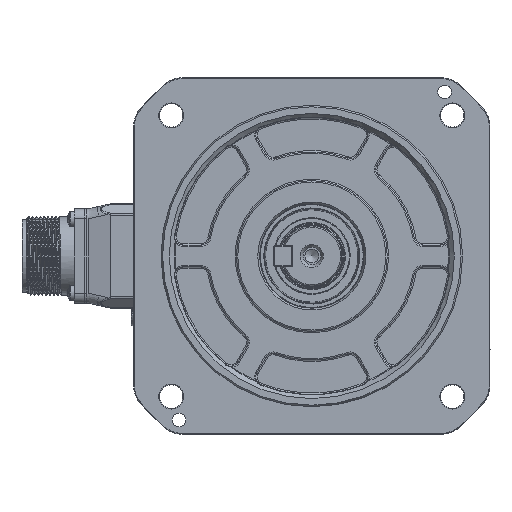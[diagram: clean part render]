
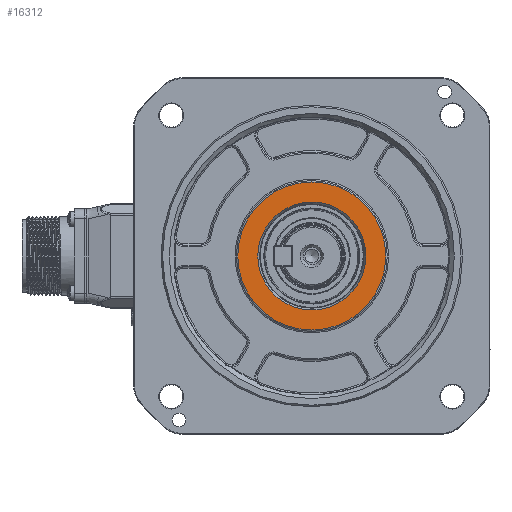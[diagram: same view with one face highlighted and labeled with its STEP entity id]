
A CAD part, left-side view. The second image highlights one B-rep face of the part: STEP entity #16312.
In plain terms, the highlighted planar face has unit normal (-1, 0, 0).
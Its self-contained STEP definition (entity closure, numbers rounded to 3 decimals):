
#184 = DIRECTION ( 'NONE',  ( -1., 0., 0. ) ) ;
#6969 = ORIENTED_EDGE ( 'NONE', *, *, #80300, .T. ) ;
#7219 = VERTEX_POINT ( 'NONE', #23220 ) ;
#7396 = FACE_BOUND ( 'NONE', #59227, .T. ) ;
#8489 = FACE_OUTER_BOUND ( 'NONE', #112382, .T. ) ;
#16062 = DIRECTION ( 'NONE',  ( -1., 0., 0. ) ) ;
#16145 = CARTESIAN_POINT ( 'NONE',  ( 0.8, 0., 0. ) ) ;
#16312 = ADVANCED_FACE ( 'NONE', ( #7396, #8489 ), #25078, .F. ) ;
#16509 = DIRECTION ( 'NONE',  ( 1., 0., 0. ) ) ;
#23220 = CARTESIAN_POINT ( 'NONE',  ( 0.8, 0., -27. ) ) ;
#24767 = AXIS2_PLACEMENT_3D ( 'NONE', #16145, #184, #34962 ) ;
#25078 = PLANE ( 'NONE',  #101561 ) ;
#34962 = DIRECTION ( 'NONE',  ( 0., 0., -1. ) ) ;
#51341 = DIRECTION ( 'NONE',  ( 0., 0., -1. ) ) ;
#56929 = CARTESIAN_POINT ( 'NONE',  ( 0.8, 0., -19.693 ) ) ;
#59227 = EDGE_LOOP ( 'NONE', ( #72671 ) ) ;
#59925 = CARTESIAN_POINT ( 'NONE',  ( 0.8, 27.5, 0. ) ) ;
#69038 = CIRCLE ( 'NONE', #83579, 19.693 ) ;
#72671 = ORIENTED_EDGE ( 'NONE', *, *, #85571, .F. ) ;
#73986 = CIRCLE ( 'NONE', #24767, 27. ) ;
#76610 = DIRECTION ( 'NONE',  ( 0., 0., -1. ) ) ;
#78833 = CARTESIAN_POINT ( 'NONE',  ( 0.8, 0., 0. ) ) ;
#80300 = EDGE_CURVE ( 'NONE', #7219, #7219, #73986, .T. ) ;
#83579 = AXIS2_PLACEMENT_3D ( 'NONE', #78833, #16062, #76610 ) ;
#85571 = EDGE_CURVE ( 'NONE', #102479, #102479, #69038, .T. ) ;
#101561 = AXIS2_PLACEMENT_3D ( 'NONE', #59925, #16509, #51341 ) ;
#102479 = VERTEX_POINT ( 'NONE', #56929 ) ;
#112382 = EDGE_LOOP ( 'NONE', ( #6969 ) ) ;
